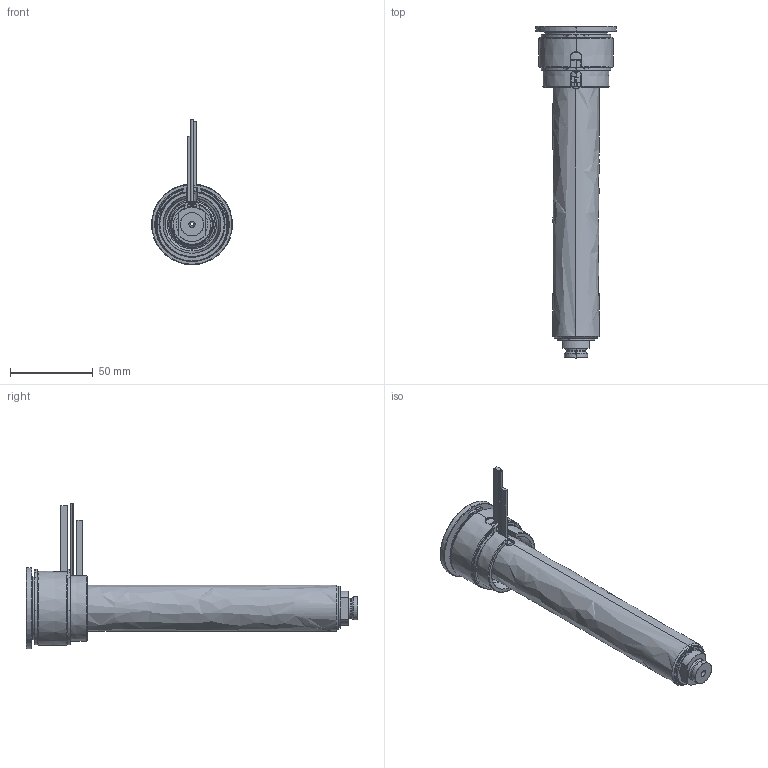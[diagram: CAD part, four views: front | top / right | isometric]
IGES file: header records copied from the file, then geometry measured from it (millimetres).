
Start section: SolidWorks IGES file using analytic representation for surfaces
Global section: file name: C:\Documents and Settings\ws-20\Desktop\TEM\UGBE4504-S-A-5 [Ød-2.0 P-0 ØC-09].IGS; native system: SolidWorks 2012; preprocessor: SolidWorks 2012; author: ws-20; date: 120412.153502; units: millimetre
Bounding box: 49 x 201 x 88.15 mm (x, y, z)
Surface area: 69691.3 mm2 (no closed solid volume)
Topology: 0 solids, 0 shells, 164 faces, 3079 edges, 3079 vertices
Faces by surface type: revolution 106, bspline 58
